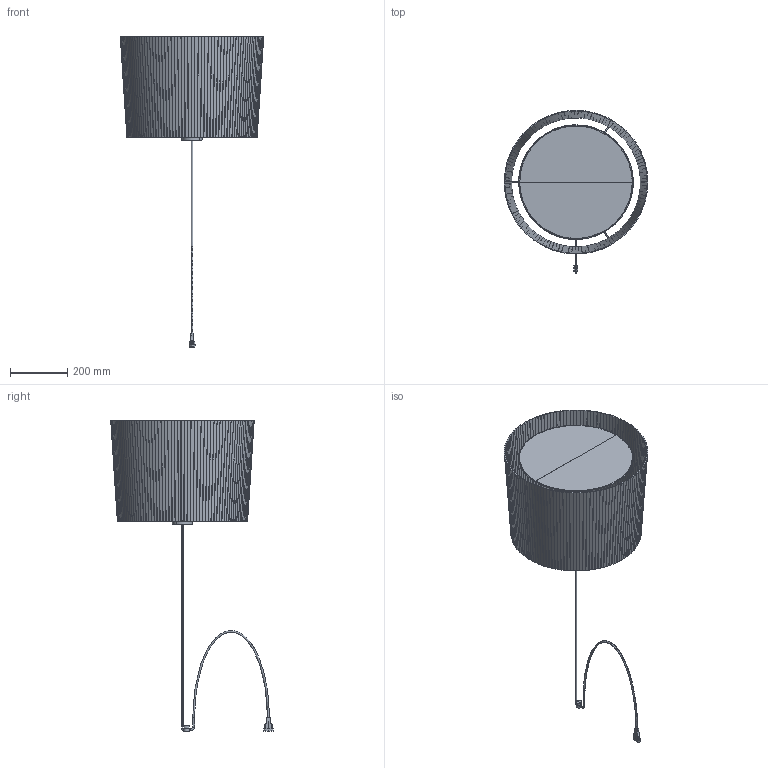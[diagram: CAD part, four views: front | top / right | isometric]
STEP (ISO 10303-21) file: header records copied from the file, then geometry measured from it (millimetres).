
FILE_DESCRIPTION(/* description */ (''),/* implementation_level */ '2;1');
FILE_NAME(/* name */ 'C:\Users\Franco Sartori E\Documents\FARO\DUPLICADO\Modelos\01_Digitalizados\2021\0_MAMBO_SAMBA_CONGA\03_Publicación\68604-45 ceiling.stp',/* time_stamp */ '2021-02-22T13:01:27+01:00',/* author */ ('Franco Sartori E'),/* organization */ (''),/* preprocessor_version */ 'ST-DEVELOPER v18.1',/* originating_system */ 'AutoCAD Mechanical',/* authorisation */ '');
FILE_SCHEMA (('AUTOMOTIVE_DESIGN { 1 0 10303 214 3 1 1 }'));
Length unit declared in the file: millimetre
Products named in the file (5): Product; 68604_Ceiling - LH-462652-_3D_; LAMP HOLDER - LH-462566-_3D_; 68604_Wall - LH-462653-_3D_; SAMBA - SH-462662-_3D_
Assembly tree (4 placements, depth 2):
  Product
    68604_Ceiling - LH-462652-_3D_
    LAMP HOLDER - LH-462566-_3D_
    68604_Wall - LH-462653-_3D_
    SAMBA - SH-462662-_3D_
Bounding box: 500.91 x 567.41 x 1082.69 mm (x, y, z)
Volume: 1745093.5 mm3; surface area: 1720621.7 mm2
Topology: 145 solids, 150 shells, 1258 faces, 2836 edges, 1858 vertices
Faces by surface type: plane 1135, cylinder 87, torus 26, cone 8, bspline 2
Entity records: 39527 total; most frequent: CARTESIAN_POINT 11434, ORIENTED_EDGE 5643, DIRECTION 5376, EDGE_CURVE 2834, LINE 2572, VECTOR 2572, VERTEX_POINT 1858, AXIS2_PLACEMENT_3D 1402
